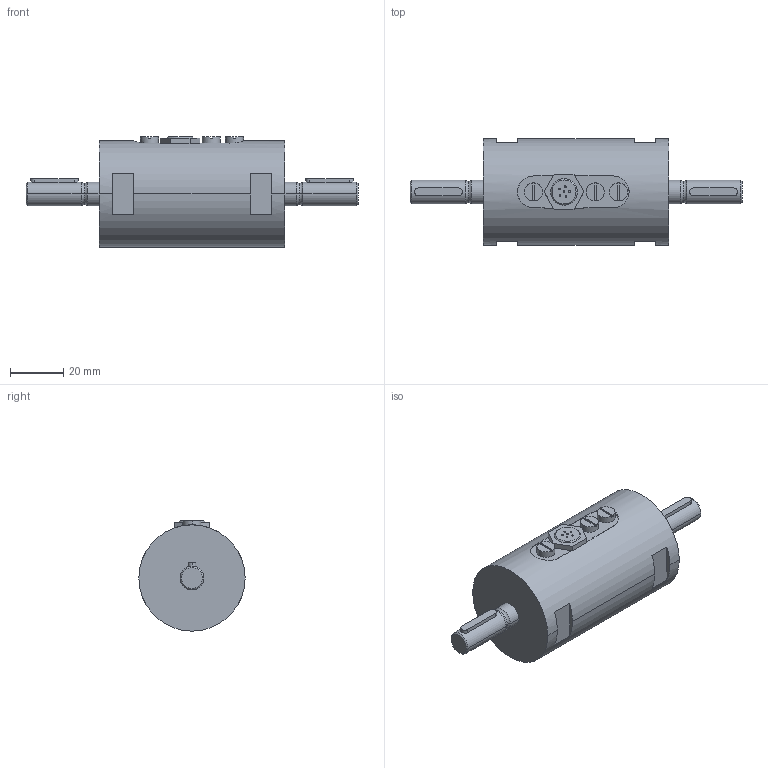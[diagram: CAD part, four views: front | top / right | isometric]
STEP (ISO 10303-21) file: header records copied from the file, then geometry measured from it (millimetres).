
FILE_DESCRIPTION(('STEP AP203'),'1');
FILE_NAME('C:/TPO v2/SharedFS/Outgoing/burster_8645-5017_5_1omae24ofdh2p860kovr4kw9v.stp','2013-08-28T18:46:04',('TraceParts'),('TraceParts S.A.'),'XStep 1.0',' ',' ');
FILE_SCHEMA(('CONFIG_CONTROL_DESIGN'));
Length unit declared in the file: millimetre
Products named in the file (1): 1
Bounding box: 125 x 40 x 41.5 mm (x, y, z)
Volume: 91307.8 mm3; surface area: 13404.9 mm2
Topology: 1 solids, 1 shells, 116 faces, 277 edges, 178 vertices
Faces by surface type: plane 63, cylinder 39, torus 8, cone 6
Entity records: 3645 total; most frequent: CARTESIAN_POINT 815, DIRECTION 619, ORIENTED_EDGE 554, EDGE_CURVE 277, AXIS2_PLACEMENT_3D 236, VERTEX_POINT 178, LINE 147, VECTOR 147
